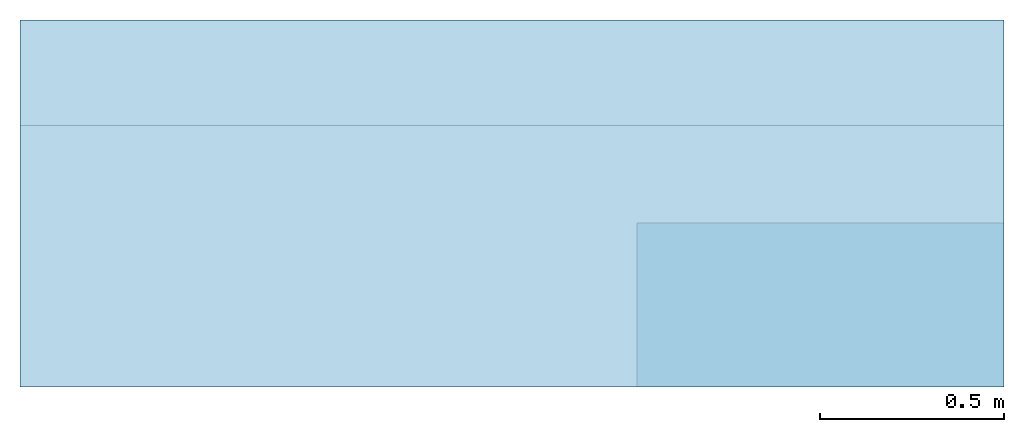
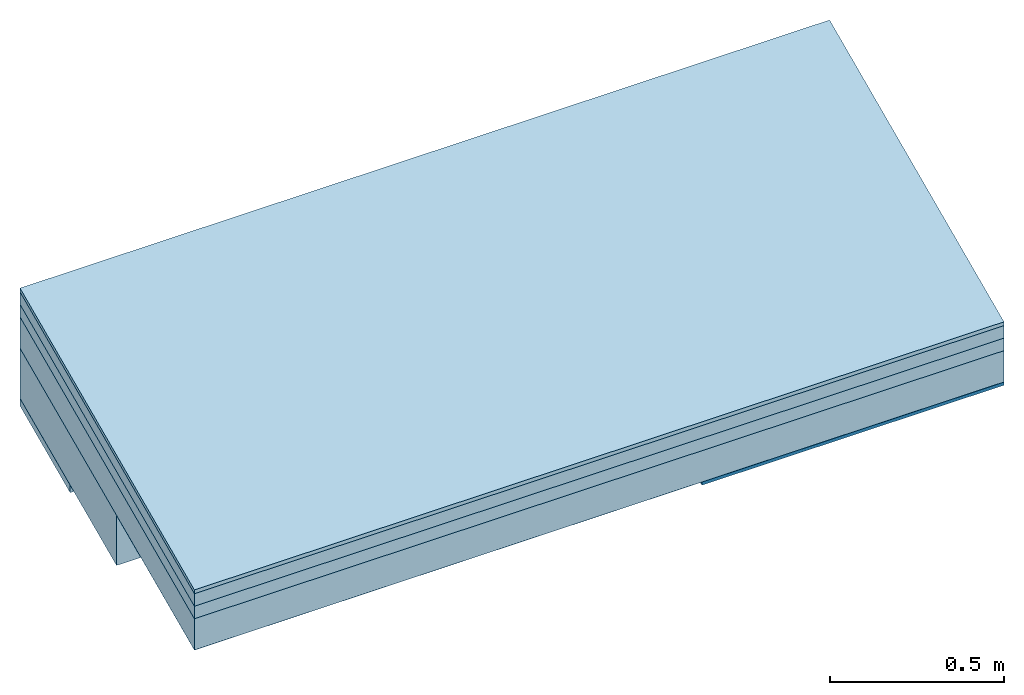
# One storey: 6 roofs, 1 building element part, 1 element without a shape of its own.
"""IFC4 building model written with IfcOpenShell, lengths in centimetres."""

from ifc_helpers import new_model, entity, si_unit, converted_unit, direction, frame, origin, place, context, subcontext, project, spatial, polygons, material, type_object, element, aggregate, save


model = new_model("IFC4")

# Units and contexts
model_context = context("Model", 3, precision=0.001, world=origin(), true_north=direction((0.0, 1.0)))
body_context = subcontext(model_context, "Body", "Model", "MODEL_VIEW")
ifc_project = project(units=[si_unit("LENGTHUNIT", "METRE", prefix="CENTI"), si_unit("AREAUNIT", "SQUARE_METRE"), si_unit("VOLUMEUNIT", "CUBIC_METRE"), converted_unit("PLANEANGLEUNIT", "DEGREE", entity("IfcPlaneAngleMeasure", 0.017453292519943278), si_unit("PLANEANGLEUNIT", "RADIAN"), dimensions=[0, 0, 0, 0, 0, 0, 0])], contexts=[model_context])

# Site, building, storey
site_placement = place(None, origin())
site = spatial("IfcSite", under=ifc_project, at=site_placement, Name="Default", CompositionType="ELEMENT")
building_placement = place(site_placement, origin())
building = spatial("IfcBuilding", under=site, at=building_placement, CompositionType="ELEMENT")
storey_placement = place(building_placement, frame((0.0, 0.0, -12.0)))
storey = spatial("IfcBuildingStorey", under=building, at=storey_placement, Name="L00__ABOVE Slab", CompositionType="ELEMENT", Elevation=-12.000000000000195)

# Roofs
ifc_material_1 = material(Name="_SL ROOF FINISH__Clay Tiles__Tondach", Category="Ceramic")
roof_1_placement = place(storey_placement, frame((0.0, 0.0, 869.8248270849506)))
element("IfcRoof", 1, at=roof_1_placement, inside=storey, material=ifc_material_1, Name="Parts : Part", PredefinedType="NOTDEFINED", context=body_context, shape_type="Tessellation", body=[
    polygons([(5084.679456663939, 651.3779382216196, 0.0), (4816.681063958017, 651.3779382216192, 0.0), (4816.681063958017, 751.3779382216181, 44.99999999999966), (5084.679456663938, 751.3779382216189, 44.99999999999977), (4816.681063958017, 651.3779382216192, 1.3159027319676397), (5084.679456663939, 651.3779382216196, 1.3159027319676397), (5084.679456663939, 751.3779382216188, 46.31590273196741), (4816.681063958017, 751.377938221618, 46.3159027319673)], [[[1, 2, 3, 4]], [[5, 6, 7, 8]], [[6, 5, 2, 1]], [[5, 8, 3, 2]], [[7, 6, 1, 4]], [[8, 7, 4, 3]]], closed=True),
])
ifc_material_2 = material(Name="_SL ROOF LAYERS__Horizontal Counter Battens__WD, 60x40mm", Category="Ceramic")
roof_2_placement = place(storey_placement, frame((0.0, 0.0, 865.4384846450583)))
element("IfcRoof", 2, at=roof_2_placement, inside=storey, material=ifc_material_2, Name="Parts : Part", PredefinedType="NOTDEFINED", context=body_context, shape_type="Tessellation", body=[
    polygons([(5084.679456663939, 651.3779382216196, 0.0), (4816.681063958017, 651.3779382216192, 0.0), (4816.681063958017, 751.3779382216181, 44.99999999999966), (5084.679456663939, 751.3779382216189, 44.99999999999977), (5084.679456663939, 651.3779382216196, 4.386342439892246), (4816.681063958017, 651.3779382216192, 4.386342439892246), (4816.681063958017, 751.3779382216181, 49.386342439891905), (5084.679456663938, 751.3779382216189, 49.38634243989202)], [[[1, 2, 3, 4]], [[1, 5, 6, 2]], [[2, 6, 7, 3]], [[5, 1, 4, 8]], [[8, 4, 3, 7]], [[6, 5, 8, 7]]], closed=True),
])
ifc_material_3 = material(Name="_SL ROOF LAYERS__Ventilated Air Space / Vertical Battens__WD, 60x40mm", Category="Ceramic")
roof_3_placement = place(storey_placement, frame((0.0, 0.0, 861.0521422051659)))
element("IfcRoof", 3, at=roof_3_placement, inside=storey, material=ifc_material_3, Name="Parts : Part", PredefinedType="NOTDEFINED", context=body_context, shape_type="Tessellation", body=[
    polygons([(5084.679456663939, 651.3779382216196, 1.1368683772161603e-13), (4816.681063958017, 651.3779382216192, 0.0), (4816.681063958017, 751.3779382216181, 44.99999999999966), (5084.679456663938, 751.3779382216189, 44.99999999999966), (5084.679456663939, 651.3779382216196, 4.38634243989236), (4816.681063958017, 651.3779382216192, 4.38634243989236), (4816.681063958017, 751.3779382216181, 49.38634243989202), (5084.679456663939, 751.3779382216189, 49.38634243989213)], [[[1, 2, 3, 4]], [[1, 5, 6, 2]], [[2, 6, 7, 3]], [[5, 1, 4, 8]], [[8, 4, 3, 7]], [[6, 5, 8, 7]]], closed=True),
])
ifc_material_4 = material(Name="_SL ROOF LAYERS__Insulation__MW abv Rafters__Rockwool Hardrock 700")
roof_4_placement = place(storey_placement, frame((0.0, 0.0, 850.0862861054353)))
element("IfcRoof", 4, at=roof_4_placement, inside=storey, material=ifc_material_4, Name="Parts : Part", PredefinedType="NOTDEFINED", context=body_context, shape_type="Tessellation", body=[
    polygons([(5084.679456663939, 651.3779382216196, 0.0), (4816.681063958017, 651.3779382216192, 0.0), (4816.681063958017, 751.3779382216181, 44.99999999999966), (5084.679456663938, 751.3779382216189, 44.99999999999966), (5084.679456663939, 651.3779382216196, 10.965856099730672), (4816.681063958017, 651.3779382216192, 10.965856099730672), (4816.681063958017, 751.3779382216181, 55.96585609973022), (5084.679456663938, 751.3779382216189, 55.96585609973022)], [[[1, 2, 3, 4]], [[1, 5, 6, 2]], [[2, 6, 7, 3]], [[5, 1, 4, 8]], [[8, 4, 3, 7]], [[6, 5, 8, 7]]], closed=True),
])
roof_5_placement = place(storey_placement, frame((0.0, 0.0, 850.0535741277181)))
element("IfcRoof", 5, at=roof_5_placement, inside=storey, material=ifc_material_4, Name="Parts : Part", PredefinedType="NOTDEFINED", context=body_context, shape_type="Tessellation", body=[
    polygons([(4816.681063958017, 696.0243584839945, 2.5782313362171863), (4816.681063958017, 751.3779382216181, 27.487342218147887), (5084.679456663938, 751.3779382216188, 27.487342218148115), (5084.679456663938, 696.024358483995, 2.5782313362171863), (4816.681063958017, 651.3779382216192, 0.0), (5084.679456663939, 651.3779382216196, 0.0), (5084.679456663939, 651.3779382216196, 0.03271197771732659), (4816.681063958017, 651.3779382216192, 0.03271197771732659), (4816.681063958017, 696.0243584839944, 20.0908891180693), (4816.681063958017, 751.3779382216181, 45.03271197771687), (5084.679456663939, 696.0243584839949, 20.0908891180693), (5084.679456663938, 751.3779382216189, 45.032711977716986)], [[[1, 2, 3, 4]], [[5, 6, 7, 8]], [[9, 5, 8, 10, 2, 1]], [[6, 11, 4, 3, 12, 7]], [[12, 3, 2, 10]], [[8, 7, 12, 10]], [[11, 9, 1, 4]], [[6, 5, 9, 11]]], closed=True),
])
ifc_material_5 = material(Name="_SL ROOF LAYERS__Decking Board__WD", Category="Ceramic")
roof_6_placement = place(storey_placement, frame((0.0, 0.0, 861.9699999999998)))
element("IfcRoof", 6, at=roof_6_placement, inside=storey, material=ifc_material_5, Name="Parts : Part", PredefinedType="NOTDEFINED", context=body_context, shape_type="Tessellation", body=[
    polygons([(4816.681063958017, 751.377938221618, 12.939110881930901), (4816.681063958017, 722.624358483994, 0.0), (4816.681063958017, 722.624358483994, 2.6318054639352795), (4816.681063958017, 751.377938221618, 15.57091634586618), (5084.679456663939, 722.6243584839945, 0.0), (5084.679456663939, 751.3779382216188, 12.939110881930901), (5084.679456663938, 751.3779382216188, 15.570916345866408), (5084.679456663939, 722.6243584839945, 2.6318054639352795)], [[[1, 2, 3, 4]], [[5, 6, 7, 8]], [[6, 1, 4, 7]], [[4, 3, 8, 7]], [[1, 6, 5, 2]], [[2, 5, 8, 3]]], closed=True),
])

# Covering, building element part
covering_type = type_object("IfcCoveringType", Name="Roof Soffits : Roof Soffit : Roof Soffit 1", PredefinedType="CLADDING")
covering_placement = place(storey_placement, origin())
covering = element("IfcCovering", 7, at=covering_placement, inside=storey, type_object=covering_type, Name="Roof Soffits : Roof Soffit : Roof Soffit 1", PredefinedType="CLADDING")
ifc_material_6 = material(Name="_FCD FINISH__Wood", Category="Ceramic")
building_element_part_placement = place(covering_placement, frame((4984.679456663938, 651.3779382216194, 848.9569885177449)))
building_element_part = element("IfcBuildingElementPart", 8, at=building_element_part_placement, material=ifc_material_6, Name="_FCD FINISH__Wood", context=body_context, shape_type="Tessellation", body=[
    polygons([(100.00000000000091, 2.2737367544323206e-13, 1.0965856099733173), (100.00000000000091, 44.646420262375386, 21.187474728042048), (0.0, 44.64642026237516, 21.187474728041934), (0.0, 0.0, 1.09658560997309), (100.00000000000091, 2.2737367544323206e-13, 2.2737367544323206e-13), (0.0, 0.0, 0.0), (0.0, 44.64642026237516, 20.09088911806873), (100.00000000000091, 44.646420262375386, 20.090889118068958)], [[[1, 2, 3, 4]], [[5, 6, 7, 8]], [[2, 1, 5, 8]], [[3, 2, 8, 7]], [[4, 3, 7, 6]], [[1, 4, 6, 5]]], closed=True),
])
aggregate(covering, [building_element_part])

save(model, "model.ifc")
